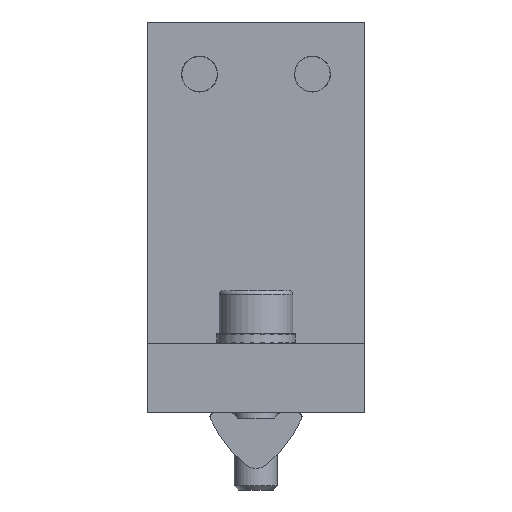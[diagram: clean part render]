
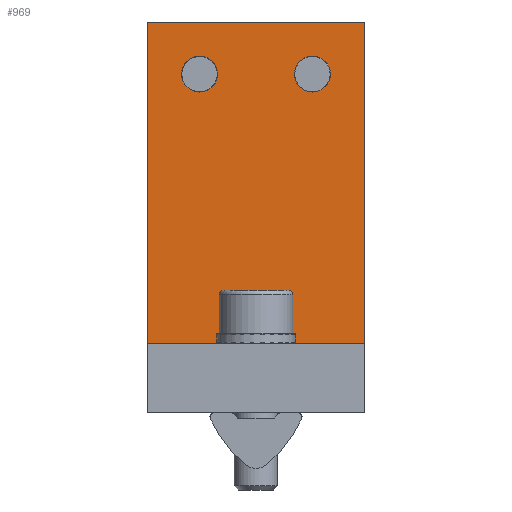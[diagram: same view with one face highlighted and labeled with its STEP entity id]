
A CAD part, front view. The second image highlights one B-rep face of the part: STEP entity #969.
In plain terms, the highlighted planar face has unit normal (0, -1, 0).
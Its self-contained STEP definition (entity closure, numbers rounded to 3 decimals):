
#969=ADVANCED_FACE('',(#1860,#1861,#1862),#1863,.F.);
#1860=FACE_OUTER_BOUND('',#2748,.T.);
#1861=FACE_BOUND('',#2749,.T.);
#1862=FACE_BOUND('',#2750,.T.);
#1863=PLANE('',#2751);
#2748=EDGE_LOOP('',(#5201,#5202,#5203,#5204));
#2749=EDGE_LOOP('',(#5205));
#2750=EDGE_LOOP('',(#5206));
#2751=AXIS2_PLACEMENT_3D('',#5207,#5208,#5209);
#5201=ORIENTED_EDGE('',*,*,#6414,.T.);
#5202=ORIENTED_EDGE('',*,*,#6415,.T.);
#5203=ORIENTED_EDGE('',*,*,#6416,.F.);
#5204=ORIENTED_EDGE('',*,*,#6417,.F.);
#5205=ORIENTED_EDGE('',*,*,#6418,.F.);
#5206=ORIENTED_EDGE('',*,*,#6412,.F.);
#5207=CARTESIAN_POINT('',(47.825,19.0,21.0));
#5208=DIRECTION('',(0.0,1.0,0.0));
#5209=DIRECTION('',(0.0,0.0,1.0));
#6412=EDGE_CURVE('',#7904,#7904,#7905,.T.);
#6414=EDGE_CURVE('',#7907,#7908,#7909,.T.);
#6415=EDGE_CURVE('',#7908,#7910,#7911,.T.);
#6416=EDGE_CURVE('',#7912,#7910,#7913,.T.);
#6417=EDGE_CURVE('',#7907,#7912,#7914,.T.);
#6418=EDGE_CURVE('',#7915,#7915,#7916,.T.);
#7904=VERTEX_POINT('',#10012);
#7905=CIRCLE('',#10013,2.067);
#7907=VERTEX_POINT('',#10015);
#7908=VERTEX_POINT('',#10016);
#7909=LINE('',#10017,#10018);
#7910=VERTEX_POINT('',#10019);
#7911=LINE('',#10020,#10021);
#7912=VERTEX_POINT('',#10022);
#7913=LINE('',#10023,#10024);
#7914=LINE('',#10025,#10026);
#7915=VERTEX_POINT('',#10027);
#7916=CIRCLE('',#10028,2.067);
#10012=CARTESIAN_POINT('',(-4.433,19.0,15.0));
#10013=AXIS2_PLACEMENT_3D('',#11330,#11331,#11332);
#10015=CARTESIAN_POINT('',(12.5,19.0,21.0));
#10016=CARTESIAN_POINT('',(-12.5,19.0,21.0));
#10017=CARTESIAN_POINT('',(47.825,19.0,21.0));
#10018=VECTOR('',#11333,1.0);
#10019=CARTESIAN_POINT('',(-12.5,19.0,-16.0));
#10020=CARTESIAN_POINT('',(-12.5,19.0,21.0));
#10021=VECTOR('',#11334,1.0);
#10022=CARTESIAN_POINT('',(12.5,19.0,-16.0));
#10023=CARTESIAN_POINT('',(47.825,19.0,-16.0));
#10024=VECTOR('',#11335,1.0);
#10025=CARTESIAN_POINT('',(12.5,19.0,21.0));
#10026=VECTOR('',#11336,1.0);
#10027=CARTESIAN_POINT('',(8.567,19.0,15.0));
#10028=AXIS2_PLACEMENT_3D('',#11337,#11338,#11339);
#11330=CARTESIAN_POINT('',(-6.5,19.0,15.0));
#11331=DIRECTION('',(0.0,-1.0,0.0));
#11332=DIRECTION('',(1.0,0.0,0.0));
#11333=DIRECTION('',(-1.0,0.0,0.));
#11334=DIRECTION('',(0.,0.0,-1.0));
#11335=DIRECTION('',(-1.0,0.0,0.));
#11336=DIRECTION('',(0.,0.0,-1.0));
#11337=CARTESIAN_POINT('',(6.5,19.0,15.0));
#11338=DIRECTION('',(0.0,-1.0,0.0));
#11339=DIRECTION('',(1.0,0.0,0.0));
